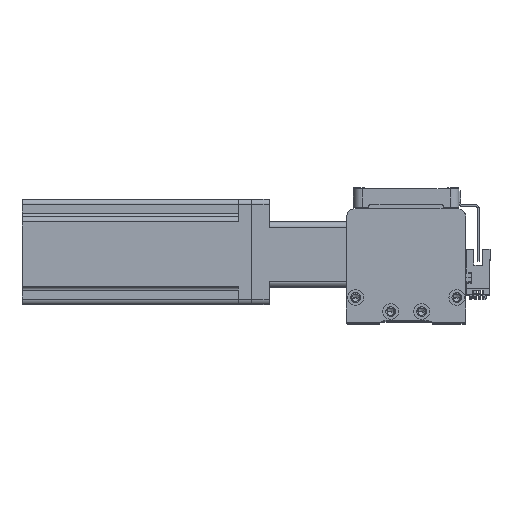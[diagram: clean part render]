
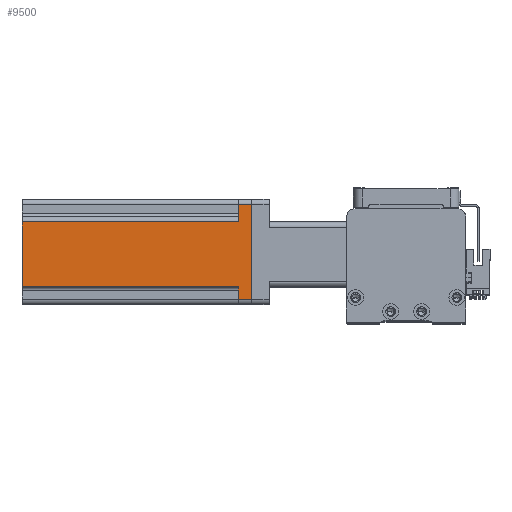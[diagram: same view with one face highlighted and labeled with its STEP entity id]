
A CAD part, top view. The second image highlights one B-rep face of the part: STEP entity #9500.
In plain terms, the highlighted planar face has unit normal (0, 0, 1) as drawn and (-1, 0, 0) by its records, which use the part's own axes.
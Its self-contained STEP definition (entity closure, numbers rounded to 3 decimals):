
#84 = LINE ( 'NONE', #6615, #24925 ) ;
#3034 = LINE ( 'NONE', #8524, #19294 ) ;
#3068 = VERTEX_POINT ( 'NONE', #30398 ) ;
#3080 = VERTEX_POINT ( 'NONE', #32563 ) ;
#4729 = LINE ( 'NONE', #10314, #13377 ) ;
#5141 = CARTESIAN_POINT ( 'NONE',  ( -30., 27., 130.7 ) ) ;
#5232 = CARTESIAN_POINT ( 'NONE',  ( -30., 20., 7.5 ) ) ;
#5560 = LINE ( 'NONE', #7638, #30459 ) ;
#5963 = VERTEX_POINT ( 'NONE', #39590 ) ;
#6041 = EDGE_CURVE ( 'NONE', #3068, #14210, #18542, .T. ) ;
#6615 = CARTESIAN_POINT ( 'NONE',  ( -30., -30., 7.5 ) ) ;
#7143 = EDGE_CURVE ( 'NONE', #3068, #33072, #34278, .T. ) ;
#7638 = CARTESIAN_POINT ( 'NONE',  ( -30., -30., 0. ) ) ;
#8272 = EDGE_CURVE ( 'NONE', #10873, #23972, #84, .T. ) ;
#8524 = CARTESIAN_POINT ( 'NONE',  ( -30., -27., 130.7 ) ) ;
#9500 = ADVANCED_FACE ( 'NONE', ( #15131 ), #16418, .F. ) ;
#9935 = VECTOR ( 'NONE', #27204, 1000. ) ;
#10032 = DIRECTION ( 'NONE',  ( 1., 0., 0. ) ) ;
#10314 = CARTESIAN_POINT ( 'NONE',  ( -30., -17., 130.7 ) ) ;
#10536 = EDGE_CURVE ( 'NONE', #33072, #36436, #12751, .T. ) ;
#10873 = VERTEX_POINT ( 'NONE', #38461 ) ;
#11740 = VECTOR ( 'NONE', #13602, 1000. ) ;
#12751 = LINE ( 'NONE', #26773, #11740 ) ;
#13129 = ORIENTED_EDGE ( 'NONE', *, *, #6041, .T. ) ;
#13377 = VECTOR ( 'NONE', #19650, 1000. ) ;
#13602 = DIRECTION ( 'NONE',  ( 0., -1., 0. ) ) ;
#14210 = VERTEX_POINT ( 'NONE', #33073 ) ;
#14285 = ORIENTED_EDGE ( 'NONE', *, *, #8272, .F. ) ;
#14524 = ORIENTED_EDGE ( 'NONE', *, *, #23041, .T. ) ;
#14899 = DIRECTION ( 'NONE',  ( 0., 0., 1. ) ) ;
#15131 = FACE_OUTER_BOUND ( 'NONE', #29178, .T. ) ;
#16418 = PLANE ( 'NONE',  #37912 ) ;
#16717 = ORIENTED_EDGE ( 'NONE', *, *, #7143, .F. ) ;
#17009 = VECTOR ( 'NONE', #37584, 1000. ) ;
#17405 = DIRECTION ( 'NONE',  ( 0., -1., 0. ) ) ;
#18542 = LINE ( 'NONE', #40136, #9935 ) ;
#19173 = ORIENTED_EDGE ( 'NONE', *, *, #31436, .T. ) ;
#19294 = VECTOR ( 'NONE', #14899, 1000. ) ;
#19650 = DIRECTION ( 'NONE',  ( 0., 0., 1. ) ) ;
#20638 = LINE ( 'NONE', #5141, #36907 ) ;
#23041 = EDGE_CURVE ( 'NONE', #3080, #23972, #3034, .T. ) ;
#23138 = ORIENTED_EDGE ( 'NONE', *, *, #29750, .T. ) ;
#23972 = VERTEX_POINT ( 'NONE', #33291 ) ;
#24132 = EDGE_CURVE ( 'NONE', #14210, #5963, #20638, .T. ) ;
#24925 = VECTOR ( 'NONE', #29286, 1000. ) ;
#26773 = CARTESIAN_POINT ( 'NONE',  ( -30., -30., 130.7 ) ) ;
#27204 = DIRECTION ( 'NONE',  ( 0., 1., 0. ) ) ;
#27846 = DIRECTION ( 'NONE',  ( 0., 0., -1. ) ) ;
#29178 = EDGE_LOOP ( 'NONE', ( #14285, #23138, #35284, #16717, #13129, #41354, #19173, #14524 ) ) ;
#29286 = DIRECTION ( 'NONE',  ( 0., -1., 0. ) ) ;
#29463 = CARTESIAN_POINT ( 'NONE',  ( -30., -30., 130.7 ) ) ;
#29750 = EDGE_CURVE ( 'NONE', #10873, #36436, #4729, .T. ) ;
#30398 = CARTESIAN_POINT ( 'NONE',  ( -30., 20., 7.5 ) ) ;
#30459 = VECTOR ( 'NONE', #17405, 1000. ) ;
#31436 = EDGE_CURVE ( 'NONE', #5963, #3080, #5560, .T. ) ;
#32563 = CARTESIAN_POINT ( 'NONE',  ( -30., -27., 0. ) ) ;
#32760 = DIRECTION ( 'NONE',  ( 0., 0., -1. ) ) ;
#33072 = VERTEX_POINT ( 'NONE', #40155 ) ;
#33073 = CARTESIAN_POINT ( 'NONE',  ( -30., 27., 7.5 ) ) ;
#33291 = CARTESIAN_POINT ( 'NONE',  ( -30., -27., 7.5 ) ) ;
#34278 = LINE ( 'NONE', #5232, #17009 ) ;
#34784 = CARTESIAN_POINT ( 'NONE',  ( -30., -17., 130.7 ) ) ;
#35284 = ORIENTED_EDGE ( 'NONE', *, *, #10536, .F. ) ;
#36436 = VERTEX_POINT ( 'NONE', #34784 ) ;
#36907 = VECTOR ( 'NONE', #27846, 1000. ) ;
#37584 = DIRECTION ( 'NONE',  ( 0., 0., 1. ) ) ;
#37912 = AXIS2_PLACEMENT_3D ( 'NONE', #29463, #10032, #32760 ) ;
#38461 = CARTESIAN_POINT ( 'NONE',  ( -30., -17., 7.5 ) ) ;
#39590 = CARTESIAN_POINT ( 'NONE',  ( -30., 27., 0. ) ) ;
#40136 = CARTESIAN_POINT ( 'NONE',  ( -30., 30., 7.5 ) ) ;
#40155 = CARTESIAN_POINT ( 'NONE',  ( -30., 20., 130.7 ) ) ;
#41354 = ORIENTED_EDGE ( 'NONE', *, *, #24132, .T. ) ;
